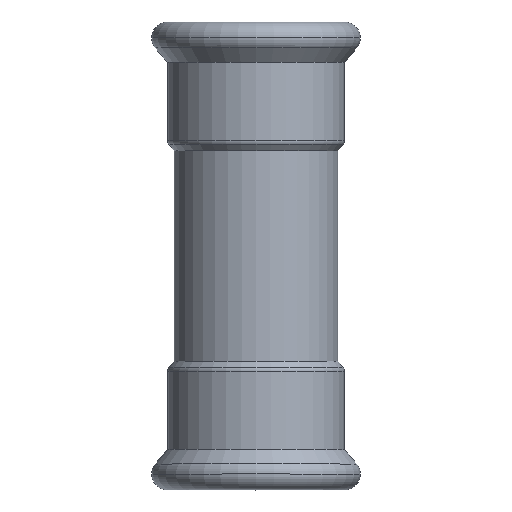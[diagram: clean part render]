
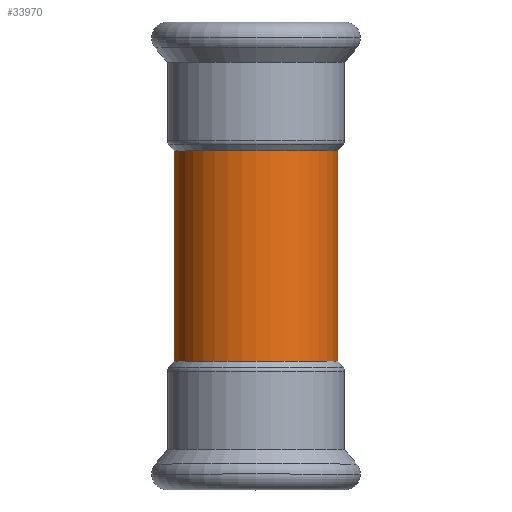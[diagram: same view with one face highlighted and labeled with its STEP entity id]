
A CAD part, top view. The second image highlights one B-rep face of the part: STEP entity #33970.
In plain terms, the highlighted cylindrical face has radius 21 mm (diameter 42 mm), a partial arc.
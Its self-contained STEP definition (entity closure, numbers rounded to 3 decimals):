
#21200=CARTESIAN_POINT('',(278.14,77.404,
27.));
#21210=DIRECTION('',(0.,0.,1.));
#21220=DIRECTION('',(1.,0.,0.));
#21230=AXIS2_PLACEMENT_3D('',#21200,#21210,#21220);
#21240=CYLINDRICAL_SURFACE('',#21230,21.);
#33610=CARTESIAN_POINT('',(299.14,77.404,
27.));
#33620=DIRECTION('',(0.,0.,1.));
#33630=VECTOR('',#33620,1.);
#33640=LINE('',#33610,#33630);
#33650=CARTESIAN_POINT('',(299.14,77.404,
-27.));
#33660=VERTEX_POINT('',#33650);
#33670=CARTESIAN_POINT('',(299.14,77.404,
27.));
#33680=VERTEX_POINT('',#33670);
#33690=EDGE_CURVE('',#33660,#33680,#33640,.T.);
#33700=ORIENTED_EDGE('',*,*,#33690,.F.);
#33710=CARTESIAN_POINT('',(278.14,77.404,
27.));
#33720=DIRECTION('',(0.,0.,1.));
#33730=DIRECTION('',(1.,0.,0.));
#33740=AXIS2_PLACEMENT_3D('',#33710,#33720,#33730);
#33750=CIRCLE('',#33740,21.);
#33760=CARTESIAN_POINT('',(257.14,77.404,
27.));
#33770=VERTEX_POINT('',#33760);
#33780=EDGE_CURVE('',#33680,#33770,#33750,.T.);
#33790=ORIENTED_EDGE('',*,*,#33780,.F.);
#33800=CARTESIAN_POINT('',(257.14,77.404,
27.));
#33810=DIRECTION('',(0.,0.,1.));
#33820=VECTOR('',#33810,1.);
#33830=LINE('',#33800,#33820);
#33840=CARTESIAN_POINT('',(257.14,77.404,
-27.));
#33850=VERTEX_POINT('',#33840);
#33860=EDGE_CURVE('',#33850,#33770,#33830,.T.);
#33870=ORIENTED_EDGE('',*,*,#33860,.T.);
#33880=CARTESIAN_POINT('',(278.14,77.404,
-27.));
#33890=DIRECTION('',(0.,0.,1.));
#33900=DIRECTION('',(1.,0.,0.));
#33910=AXIS2_PLACEMENT_3D('',#33880,#33890,#33900);
#33920=CIRCLE('',#33910,21.);
#33930=EDGE_CURVE('',#33660,#33850,#33920,.T.);
#33940=ORIENTED_EDGE('',*,*,#33930,.T.);
#33950=EDGE_LOOP('',(#33940,#33870,#33790,#33700));
#33960=FACE_OUTER_BOUND('',#33950,.T.);
#33970=ADVANCED_FACE('',(#33960),#21240,.T.);
